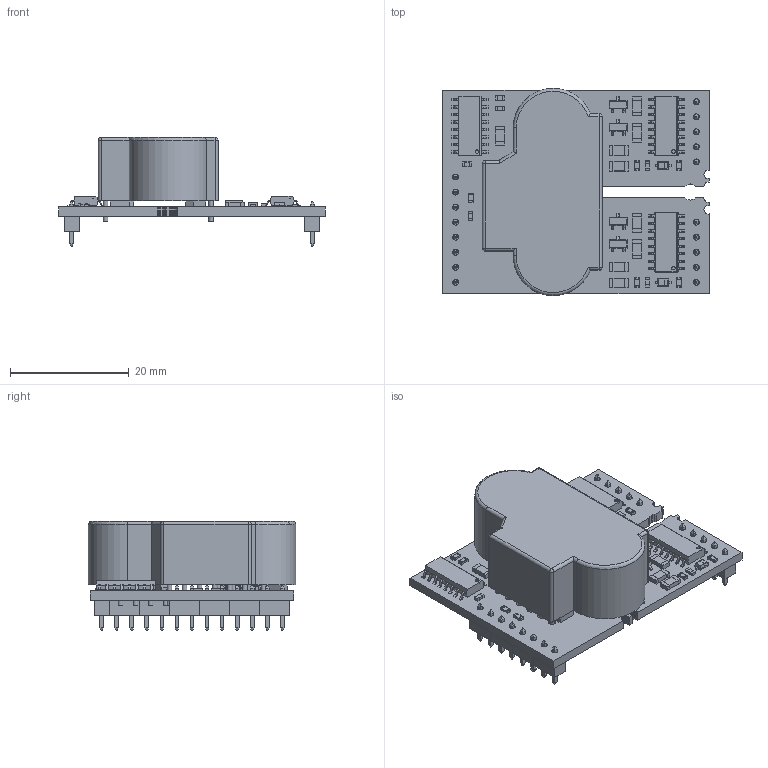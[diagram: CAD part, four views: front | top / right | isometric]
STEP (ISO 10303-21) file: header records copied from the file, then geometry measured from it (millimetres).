
FILE_DESCRIPTION(/* description */ ('Alibre Inc.'),/* implementation_level */ '2;1');
FILE_NAME(/* name */ 'export0',/* time_stamp */ '2014-02-06T14:30:32+01:00',/* author */ (''),/* organization */ (''),/* preprocessor_version */ 'ST-DEVELOPER v14',/* originating_system */ 'Alibre',/* authorisation */ '');
FILE_SCHEMA (('AUTOMOTIVE_DESIGN'));
Length unit declared in the file: millimetre
Bounding box: 44.96 x 34.98 x 18.4 mm (x, y, z)
Volume: 8564.5 mm3; surface area: 8351.3 mm2
Topology: 129 solids, 129 shells, 2563 faces, 6283 edges, 3921 vertices
Faces by surface type: plane 1917, cylinder 519, bspline 120, sphere 5, torus 2
Full cylindrical faces by diameter (mm): 0.8 x28, 1 x21, 1.3 x14, 2.7 x2
Entity records: 26604 total; most frequent: CARTESIAN_POINT 4947, ORIENTED_EDGE 4078, DIRECTION 3842, EDGE_CURVE 2039, VECTOR 1657, LINE 1657, AXIS2_PLACEMENT_3D 1392, VERTEX_POINT 1317
